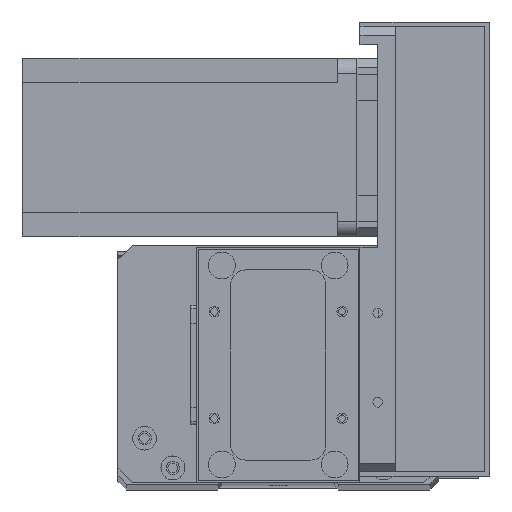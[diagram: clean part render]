
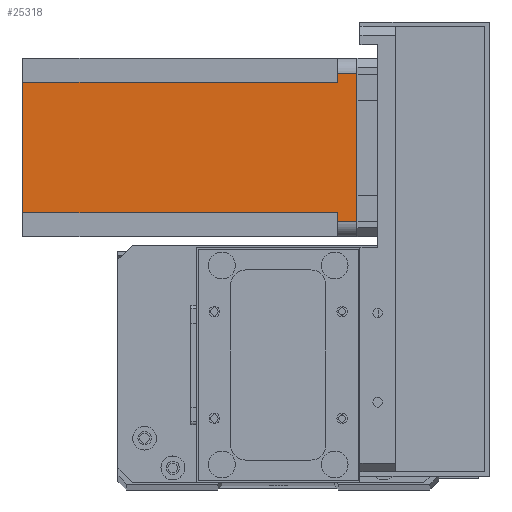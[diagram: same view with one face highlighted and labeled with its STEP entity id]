
A CAD part, top view. The second image highlights one B-rep face of the part: STEP entity #25318.
In plain terms, the highlighted planar face has unit normal (0, 0, 1) as drawn and (0, 1, 0) by its records, which use the part's own axes.
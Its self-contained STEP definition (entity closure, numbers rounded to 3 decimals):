
#37 = EDGE_CURVE ( 'NONE', #9128, #28292, #26684, .T. ) ;
#301 = ORIENTED_EDGE ( 'NONE', *, *, #8615, .F. ) ;
#348 = EDGE_CURVE ( 'NONE', #30344, #20163, #24483, .T. ) ;
#752 = VERTEX_POINT ( 'NONE', #22372 ) ;
#1158 = CARTESIAN_POINT ( 'NONE',  ( 52., 60., -112.5 ) ) ;
#1706 = CARTESIAN_POINT ( 'NONE',  ( 52., 60., -6.5 ) ) ;
#2397 = VECTOR ( 'NONE', #28354, 1000. ) ;
#2423 = CARTESIAN_POINT ( 'NONE',  ( 5., 60., 0. ) ) ;
#2891 = LINE ( 'NONE', #20020, #27175 ) ;
#4095 = ORIENTED_EDGE ( 'NONE', *, *, #20486, .T. ) ;
#4541 = DIRECTION ( 'NONE',  ( -1., 0., 0. ) ) ;
#4997 = VECTOR ( 'NONE', #20647, 1000. ) ;
#5016 = CARTESIAN_POINT ( 'NONE',  ( 52., 60., -6.5 ) ) ;
#5835 = VECTOR ( 'NONE', #4541, 1000. ) ;
#5903 = CARTESIAN_POINT ( 'NONE',  ( 0., 60., -112.5 ) ) ;
#7664 = CARTESIAN_POINT ( 'NONE',  ( 5., 60., -6.5 ) ) ;
#7730 = ORIENTED_EDGE ( 'NONE', *, *, #37, .F. ) ;
#7964 = CARTESIAN_POINT ( 'NONE',  ( 52., 60., -112.5 ) ) ;
#8299 = DIRECTION ( 'NONE',  ( 0., 0., 1. ) ) ;
#8615 = EDGE_CURVE ( 'NONE', #9922, #20163, #28817, .T. ) ;
#9128 = VERTEX_POINT ( 'NONE', #1706 ) ;
#9922 = VERTEX_POINT ( 'NONE', #28254 ) ;
#10786 = VECTOR ( 'NONE', #16440, 1000. ) ;
#10923 = VERTEX_POINT ( 'NONE', #7664 ) ;
#11070 = LINE ( 'NONE', #25780, #22812 ) ;
#11410 = EDGE_CURVE ( 'NONE', #9922, #10923, #24594, .T. ) ;
#11749 = CARTESIAN_POINT ( 'NONE',  ( 8., 60., -6.5 ) ) ;
#14074 = VERTEX_POINT ( 'NONE', #2423 ) ;
#14077 = CARTESIAN_POINT ( 'NONE',  ( 8., 60., -112.5 ) ) ;
#15003 = ORIENTED_EDGE ( 'NONE', *, *, #18073, .F. ) ;
#16440 = DIRECTION ( 'NONE',  ( 0., 0., -1. ) ) ;
#16456 = DIRECTION ( 'NONE',  ( 0., 0., 1. ) ) ;
#17046 = CARTESIAN_POINT ( 'NONE',  ( 55., 60., -112.5 ) ) ;
#17425 = ORIENTED_EDGE ( 'NONE', *, *, #29149, .F. ) ;
#17650 = PLANE ( 'NONE',  #24076 ) ;
#18073 = EDGE_CURVE ( 'NONE', #30344, #9128, #18230, .T. ) ;
#18230 = LINE ( 'NONE', #7964, #29961 ) ;
#19161 = CARTESIAN_POINT ( 'NONE',  ( 55., 60., -6.5 ) ) ;
#19761 = ORIENTED_EDGE ( 'NONE', *, *, #348, .T. ) ;
#20020 = CARTESIAN_POINT ( 'NONE',  ( 0., 60., 0. ) ) ;
#20117 = VECTOR ( 'NONE', #24096, 1000. ) ;
#20163 = VERTEX_POINT ( 'NONE', #29416 ) ;
#20486 = EDGE_CURVE ( 'NONE', #10923, #14074, #11070, .T. ) ;
#20647 = DIRECTION ( 'NONE',  ( -1., 0., 0. ) ) ;
#22097 = DIRECTION ( 'NONE',  ( 0., 0., 1. ) ) ;
#22343 = DIRECTION ( 'NONE',  ( 0., 1., 0. ) ) ;
#22372 = CARTESIAN_POINT ( 'NONE',  ( 55., 60., 0. ) ) ;
#22812 = VECTOR ( 'NONE', #16456, 1000. ) ;
#23046 = EDGE_CURVE ( 'NONE', #752, #28292, #27870, .T. ) ;
#24076 = AXIS2_PLACEMENT_3D ( 'NONE', #5903, #22343, #8299 ) ;
#24096 = DIRECTION ( 'NONE',  ( 0., 0., -1. ) ) ;
#24483 = LINE ( 'NONE', #27670, #4997 ) ;
#24594 = LINE ( 'NONE', #11749, #5835 ) ;
#24732 = EDGE_LOOP ( 'NONE', ( #17425, #25087, #7730, #15003, #19761, #301, #27757, #4095 ) ) ;
#25087 = ORIENTED_EDGE ( 'NONE', *, *, #23046, .T. ) ;
#25318 = ADVANCED_FACE ( 'NONE', ( #29895 ), #17650, .T. ) ;
#25780 = CARTESIAN_POINT ( 'NONE',  ( 5., 60., -112.5 ) ) ;
#26684 = LINE ( 'NONE', #5016, #2397 ) ;
#26932 = DIRECTION ( 'NONE',  ( -1., 0., 0. ) ) ;
#27175 = VECTOR ( 'NONE', #26932, 1000. ) ;
#27670 = CARTESIAN_POINT ( 'NONE',  ( 0., 60., -112.5 ) ) ;
#27757 = ORIENTED_EDGE ( 'NONE', *, *, #11410, .T. ) ;
#27870 = LINE ( 'NONE', #17046, #20117 ) ;
#28254 = CARTESIAN_POINT ( 'NONE',  ( 8., 60., -6.5 ) ) ;
#28292 = VERTEX_POINT ( 'NONE', #19161 ) ;
#28354 = DIRECTION ( 'NONE',  ( 1., 0., 0. ) ) ;
#28817 = LINE ( 'NONE', #14077, #10786 ) ;
#29149 = EDGE_CURVE ( 'NONE', #752, #14074, #2891, .T. ) ;
#29416 = CARTESIAN_POINT ( 'NONE',  ( 8., 60., -112.5 ) ) ;
#29895 = FACE_OUTER_BOUND ( 'NONE', #24732, .T. ) ;
#29961 = VECTOR ( 'NONE', #22097, 1000. ) ;
#30344 = VERTEX_POINT ( 'NONE', #1158 ) ;
